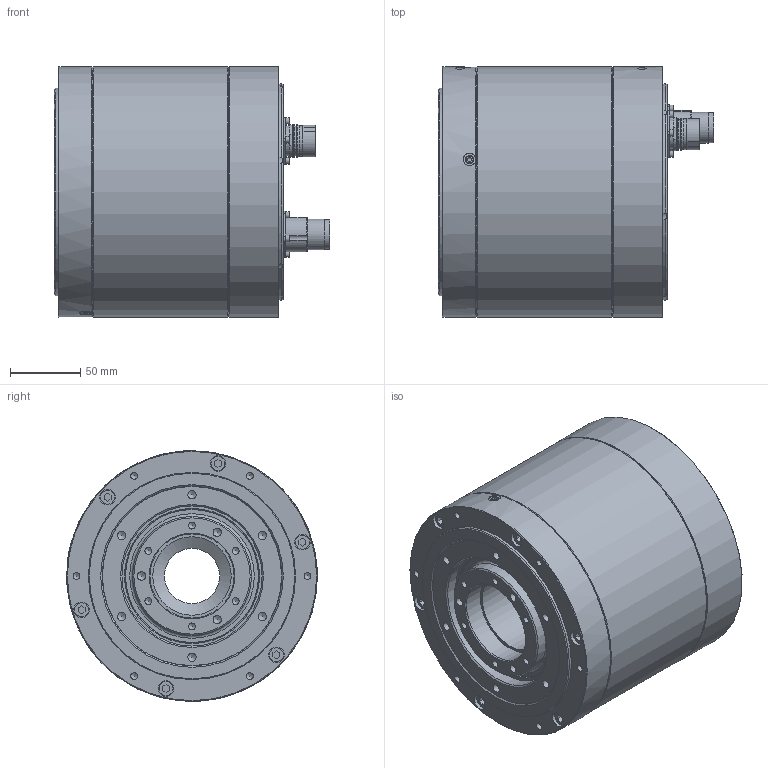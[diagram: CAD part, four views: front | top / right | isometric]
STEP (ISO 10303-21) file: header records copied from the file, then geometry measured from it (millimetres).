
FILE_DESCRIPTION( ( 'Unknown' ), '1' );
FILE_NAME( 'Q:/SKA DDR in acciaio/WEB File/SKA RT 148/3D/148CC118.stp', 'Unknown', ( 'Unknown' ), ( 'Unknown' ), 'PSStep 14.0', 'Unknown', ' ' );
FILE_SCHEMA( ( 'AUTOMOTIVE_DESIGN { 1 0 10303 214 1 1 1 1 }' ) );
Length unit declared in the file: millimetre
Products named in the file (18): Assem1; 148FP024_rev5; CN M23 PAN-POT BEGA 120 4 + 4 pin SpTcR; CN M23 PAN-SEG AEGA 139 17 pin SpTcR; 148FF049_rev5; 148VV024_rev5; 148FF050_rev5; Vite a brugola testa cil 8,8 -  M 2,5 x 8; Vite a brugola testa svasata 10,9 -  M  4 x 14; Vite a brugola testa cil 12,9 -  M  6 x 30; Vite a brugola testa cil 12,9 -  M  6 x 40; Anello OR 1,78 D142,11-2562-oa0; Anello OR 1,78 D142,11-2562-oa1; Anello OR 2,62 D120,33-3475-oa2; Grano senza punta M  6 x 10; Grano senza punta M  6 x 10-oa3; 148FS063_60_rev5; 148GG073_60_rev5
Assembly tree (37 placements, depth 2):
  Assem1
    148FP024_rev5
    CN M23 PAN-POT BEGA 120 4 + 4 pin SpTcR
    CN M23 PAN-SEG AEGA 139 17 pin SpTcR
    148FF049_rev5
    148VV024_rev5
    148FF050_rev5
    Vite a brugola testa cil 8,8 -  M 2,5 x 8  x8
    Vite a brugola testa svasata 10,9 -  M  4 x 14  x4
    Vite a brugola testa cil 12,9 -  M  6 x 30  x6
    Vite a brugola testa cil 12,9 -  M  6 x 40  x6
    Anello OR 1,78 D142,11-2562-oa0
    Anello OR 1,78 D142,11-2562-oa1
    Anello OR 2,62 D120,33-3475-oa2
    Grano senza punta M  6 x 10
    Grano senza punta M  6 x 10-oa3
    148FS063_60_rev5
    148GG073_60_rev5
Bounding box: 197 x 179 x 179 mm (x, y, z)
Volume: 2320028.6 mm3; surface area: 468901.4 mm2
Topology: 37 solids, 37 shells, 905 faces, 2078 edges, 1354 vertices
Faces by surface type: plane 399, cylinder 336, cone 138, torus 24, sphere 8
Full cylindrical faces by diameter (mm): 1.5 x4, 2 x17, 2.013 x8, 2.5 x12, 2.7 x4, 2.8 x4, 3.242 x12, 3.4 x4, 4 x6, 4.134 x12, 4.5 x4, 4.7 x8, 4.917 x50, 6 x26, 6.5 x12, 6.647 x16, 8.5 x6, 9 x2, 10 x12, 11 x12, 16 x1, 17 x2, 19.8 x2, 20 x2, 21 x2, 21.5 x2, 22 x2, 23 x2, 39.5 x1, 40 x1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
Entity records: 20286 total; most frequent: CARTESIAN_POINT 3161, DIRECTION 2888, ORIENTED_EDGE 1918, AXIS2_PLACEMENT_3D 1297, EDGE_LOOP 1197, EDGE_CURVE 959, FACE_OUTER_BOUND 904, VERTEX_POINT 866
